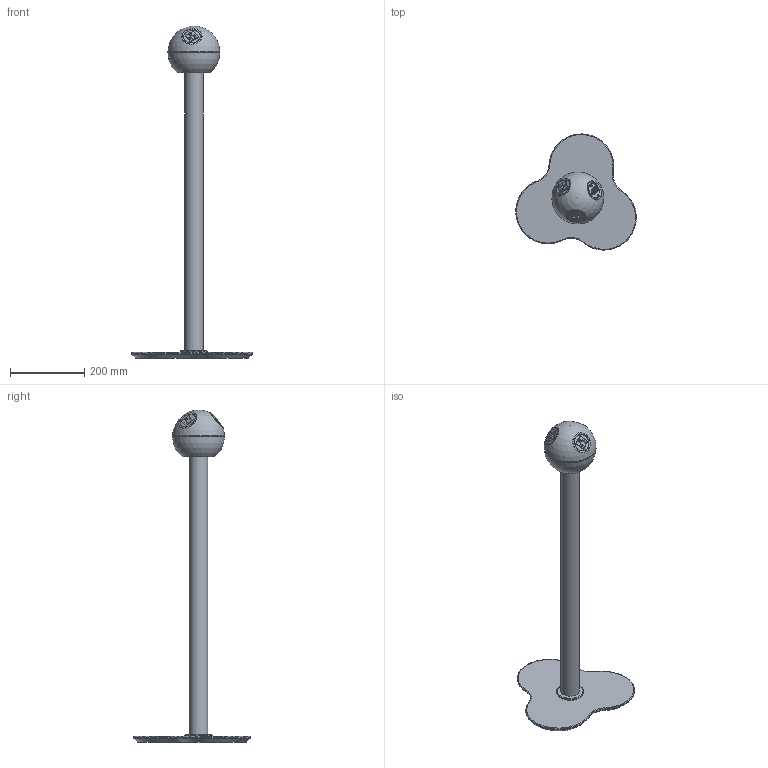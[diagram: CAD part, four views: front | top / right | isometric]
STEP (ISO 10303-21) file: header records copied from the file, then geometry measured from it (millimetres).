
FILE_DESCRIPTION((''),'2;1');
FILE_NAME('P:\Manufacturing\Autocad drawings\Inventor\blocks\Pelican-block\Pelican US1 + TUF.stp','2021-01-15T12:19:39',('ScottReyner'),(''),'Autodesk Inventor 2012','Autodesk Inventor 2012','');
FILE_SCHEMA(('AUTOMOTIVE_DESIGN { 1 0 10303 214 1 1 1 1 }'));
Length unit declared in the file: inch
Products named in the file (1): Part196
Bounding box: 325.54 x 313.86 x 896.66 mm (x, y, z)
Volume: 3813205.1 mm3; surface area: 356521 mm2
Topology: 3 solids, 13 shells, 3458 faces, 9725 edges, 6279 vertices
Faces by surface type: plane 2116, cylinder 1045, bspline 177, torus 84, cone 26, sphere 10
Full cylindrical faces by diameter (mm): 0.5 x1, 0.7 x2, 0.8 x2, 1.2 x4, 5.106 x2, 5.5 x2, 6.6 x2, 8.1 x3, 41 x1, 42.6 x1, 43.09 x1, 43.739 x1, 44.283 x1, 44.8 x2, 45 x2, 50 x1, 74 x1, 135 x1
Entity records: 121641 total; most frequent: CARTESIAN_POINT 28349, ORIENTED_EDGE 19312, DIRECTION 18276, EDGE_CURVE 9656, VECTOR 6990, LINE 6990, VERTEX_POINT 6263, AXIS2_PLACEMENT_3D 5643
